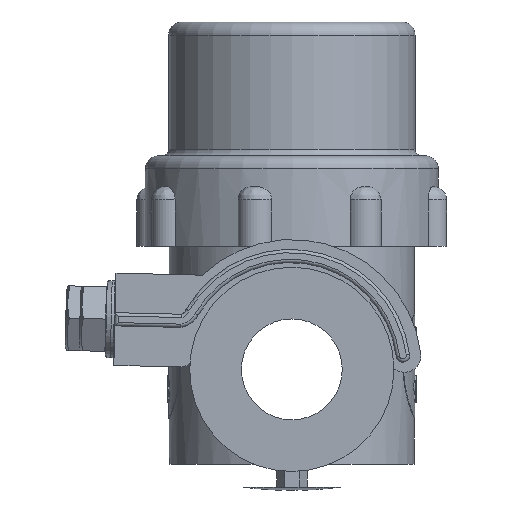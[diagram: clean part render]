
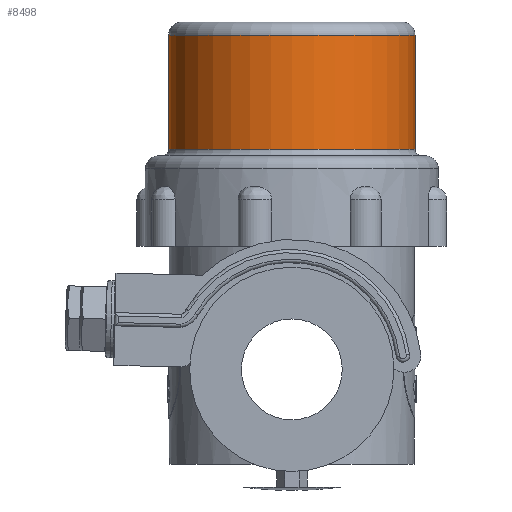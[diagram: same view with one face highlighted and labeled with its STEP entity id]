
A CAD part, front view. The second image highlights one B-rep face of the part: STEP entity #8498.
In plain terms, the highlighted cylindrical face has radius 18.7 mm (diameter 37.4 mm), a full revolution.
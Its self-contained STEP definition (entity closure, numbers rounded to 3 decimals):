
#542=CIRCLE('',#9147,18.7);
#543=CIRCLE('',#9148,18.7);
#544=CIRCLE('',#9149,18.7);
#545=CIRCLE('',#9150,18.7);
#735=CYLINDRICAL_SURFACE('',#9146,18.7);
#1080=FACE_OUTER_BOUND('',#1502,.T.);
#1502=EDGE_LOOP('',(#7547,#7548,#7549,#7550,#7551,#7552));
#2055=LINE('',#37936,#2597);
#2597=VECTOR('',#10804,18.7);
#3999=VERTEX_POINT('',#37932);
#4000=VERTEX_POINT('',#37933);
#4001=VERTEX_POINT('',#37935);
#4002=VERTEX_POINT('',#37937);
#5381=EDGE_CURVE('',#3999,#4000,#542,.T.);
#5382=EDGE_CURVE('',#4000,#4001,#2055,.T.);
#5383=EDGE_CURVE('',#4001,#4002,#543,.T.);
#5384=EDGE_CURVE('',#4002,#4001,#544,.T.);
#5385=EDGE_CURVE('',#4000,#3999,#545,.T.);
#7547=ORIENTED_EDGE('',*,*,#5381,.T.);
#7548=ORIENTED_EDGE('',*,*,#5382,.T.);
#7549=ORIENTED_EDGE('',*,*,#5383,.T.);
#7550=ORIENTED_EDGE('',*,*,#5384,.T.);
#7551=ORIENTED_EDGE('',*,*,#5382,.F.);
#7552=ORIENTED_EDGE('',*,*,#5385,.T.);
#8498=ADVANCED_FACE('',(#1080),#735,.T.);
#9146=AXIS2_PLACEMENT_3D('',#37931,#10800,#10801);
#9147=AXIS2_PLACEMENT_3D('',#37934,#10802,#10803);
#9148=AXIS2_PLACEMENT_3D('',#37938,#10805,#10806);
#9149=AXIS2_PLACEMENT_3D('',#37939,#10807,#10808);
#9150=AXIS2_PLACEMENT_3D('',#37940,#10809,#10810);
#10800=DIRECTION('center_axis',(0.,0.,-1.));
#10801=DIRECTION('ref_axis',(-0.504,0.863,0.));
#10802=DIRECTION('center_axis',(0.,0.,1.));
#10803=DIRECTION('ref_axis',(-0.504,0.863,0.));
#10804=DIRECTION('',(0.,0.,1.));
#10805=DIRECTION('center_axis',(0.,0.,-1.));
#10806=DIRECTION('ref_axis',(0.504,-0.863,0.));
#10807=DIRECTION('center_axis',(0.,0.,-1.));
#10808=DIRECTION('ref_axis',(0.504,-0.863,0.));
#10809=DIRECTION('center_axis',(0.,0.,1.));
#10810=DIRECTION('ref_axis',(-0.504,0.863,0.));
#37931=CARTESIAN_POINT('Origin',(-2.271,15.075,122.166));
#37932=CARTESIAN_POINT('',(-11.705,31.22,102.866));
#37933=CARTESIAN_POINT('',(7.163,-1.071,102.866));
#37934=CARTESIAN_POINT('Origin',(-2.271,15.075,102.866));
#37935=CARTESIAN_POINT('',(7.163,-1.071,120.166));
#37936=CARTESIAN_POINT('',(7.163,-1.071,122.166));
#37937=CARTESIAN_POINT('',(-11.705,31.22,120.166));
#37938=CARTESIAN_POINT('Origin',(-2.271,15.075,120.166));
#37939=CARTESIAN_POINT('Origin',(-2.271,15.075,120.166));
#37940=CARTESIAN_POINT('Origin',(-2.271,15.075,102.866));
